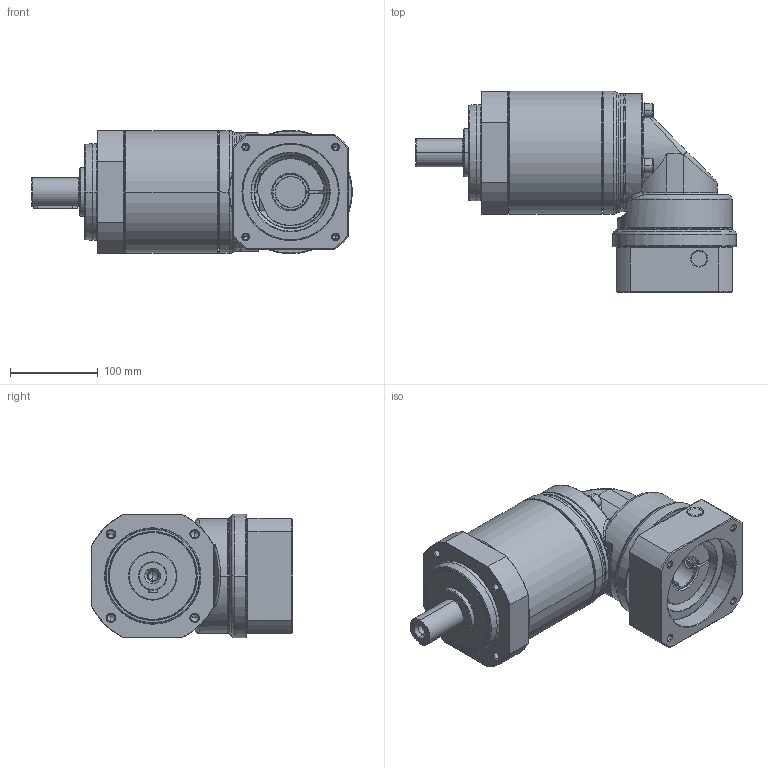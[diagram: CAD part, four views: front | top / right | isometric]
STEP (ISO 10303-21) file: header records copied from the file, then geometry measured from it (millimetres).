
FILE_DESCRIPTION((''),'2;1');
FILE_NAME('PS2R-E_2ST_35-P0411800101_ASM','2016-06-01T',('d01943'),(''),'PRO/ENGINEER BY PARAMETRIC TECHNOLOGY CORPORATION, 2008410','PRO/ENGINEER BY PARAMETRIC TECHNOLOGY CORPORATION, 2008410','');
FILE_SCHEMA(('CONFIG_CONTROL_DESIGN'));
Length unit declared in the file: millimetre
Products named in the file (12): P1328510001; P0251500001; P0350501401; P1349500001; P1017500001; P0713504001; P0503800010; P1350500401; P0411800101; P1702600001; 2111BA10040; PS2R-E_2ST_35-P0411800101_ASM
Assembly tree (14 placements, depth 2):
  PS2R-E_2ST_35-P0411800101_ASM
    P1328510001
    P0251500001
    P0350501401
    P1349500001
    P1017500001
    P0713504001
    P0503800010
    P1350500401
    P0411800101
    P1702600001
    2111BA10040  x4
Bounding box: 366 x 229.5 x 141 mm (x, y, z)
Volume: 3074028.9 mm3; surface area: 520625.4 mm2
Topology: 14 solids, 14 shells, 735 faces, 1618 edges, 931 vertices
Faces by surface type: cylinder 218, cone 214, plane 167, torus 102, bspline 34
Entity records: 23416 total; most frequent: CARTESIAN_POINT 9247, DIRECTION 3128, ORIENTED_EDGE 2748, EDGE_CURVE 1374, AXIS2_PLACEMENT_3D 1316, VERTEX_POINT 811, EDGE_LOOP 713, CIRCLE 688
